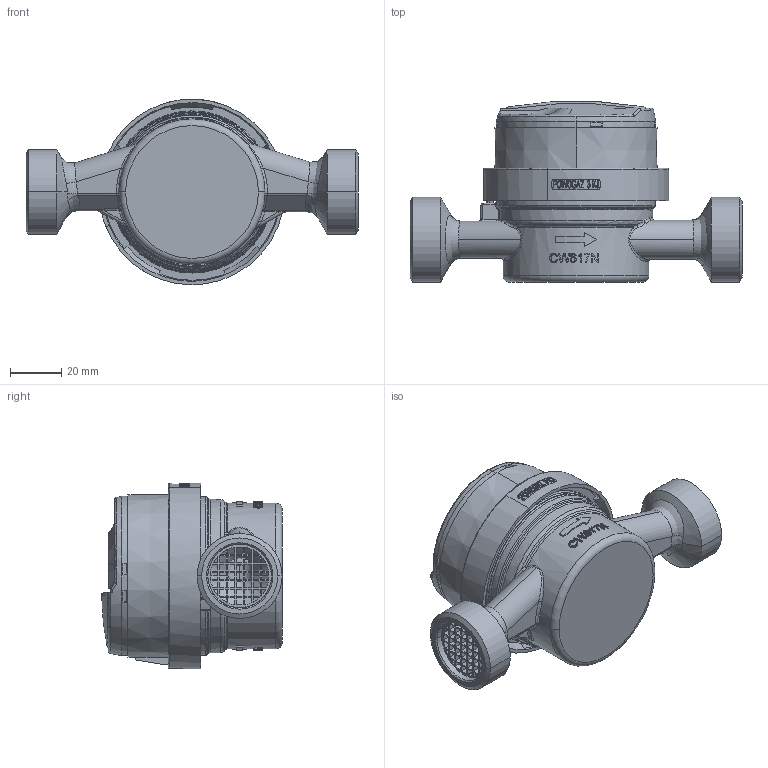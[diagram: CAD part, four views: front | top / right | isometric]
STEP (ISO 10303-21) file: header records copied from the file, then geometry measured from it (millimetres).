
FILE_DESCRIPTION (( 'STEP AP214' ), '1' );
FILE_NAME ('JS-2,5-G1-02.STEP', '2025-05-23T11:34:50', ( '' ), ( '' ), 'SwSTEP 2.0', 'SolidWorks 2019', '' );
FILE_SCHEMA (( 'AUTOMOTIVE_DESIGN' ));
Length unit declared in the file: millimetre
Products named in the file (1): JS-2,5-G1-02
Bounding box: 130 x 70.75 x 72.69 mm (x, y, z)
Volume: 216422.5 mm3; surface area: 59159 mm2
Topology: 3 solids, 7 shells, 1081 faces, 2932 edges, 1889 vertices
Faces by surface type: plane 571, cylinder 189, bspline 186, cone 84, torus 41, sphere 10
Entity records: 53669 total; most frequent: CARTESIAN_POINT 15789, ORIENTED_EDGE 5840, DIRECTION 4815, EDGE_CURVE 2920, VERTEX_POINT 1889, AXIS2_PLACEMENT_3D 1631, LINE 1553, VECTOR 1553
